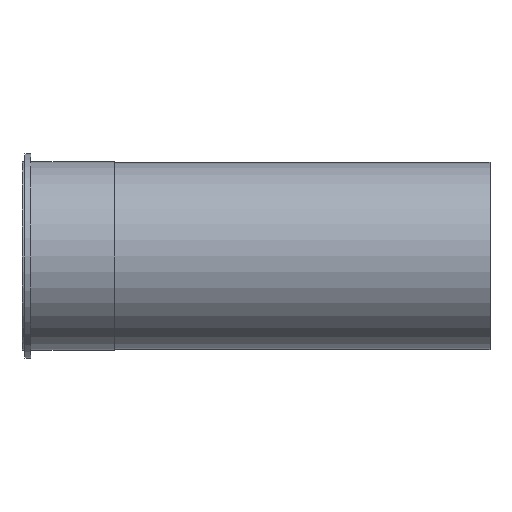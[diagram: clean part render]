
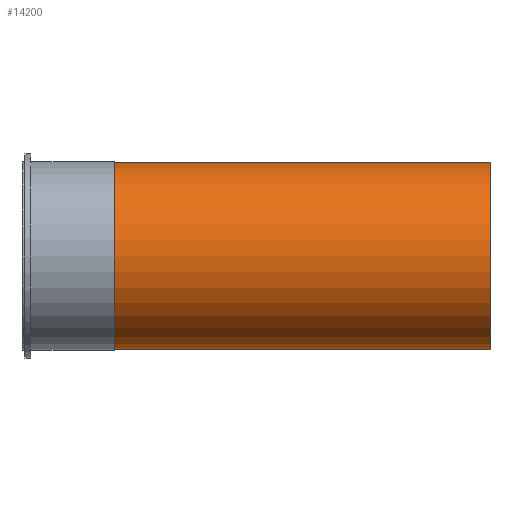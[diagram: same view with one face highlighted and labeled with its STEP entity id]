
A CAD part, front view. The second image highlights one B-rep face of the part: STEP entity #14200.
In plain terms, the highlighted cylindrical face has radius 99.949 mm (diameter 199.898 mm), a full revolution.
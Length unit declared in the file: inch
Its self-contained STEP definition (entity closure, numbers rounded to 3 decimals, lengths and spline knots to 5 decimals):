
#14169=CARTESIAN_POINT('',(3.88,3.935,0.0));
#14170=VERTEX_POINT('',#14169);
#14171=CARTESIAN_POINT('',(3.88,0.0,0.0));
#14172=DIRECTION('',(1.0,0.0,0.0));
#14173=DIRECTION('',(0.0,1.0,0.0));
#14174=AXIS2_PLACEMENT_3D('',#14171,#14172,#14173);
#14175=CIRCLE('',#14174,3.935);
#14176=EDGE_CURVE('',#14170,#14170,#14175,.T.);
#14181=CARTESIAN_POINT('',(11.78252,0.0,0.0));
#14182=DIRECTION('',(1.0,0.0,0.0));
#14183=DIRECTION('',(0.0,1.0,0.0));
#14184=AXIS2_PLACEMENT_3D('',#14181,#14182,#14183);
#14185=CYLINDRICAL_SURFACE('',#14184,3.935);
#14186=CARTESIAN_POINT('',(19.68504,3.935,0.0));
#14187=VERTEX_POINT('',#14186);
#14188=CARTESIAN_POINT('',(19.68504,0.0,0.0));
#14189=DIRECTION('',(1.0,0.0,0.0));
#14190=DIRECTION('',(0.0,1.0,0.0));
#14191=AXIS2_PLACEMENT_3D('',#14188,#14189,#14190);
#14192=CIRCLE('',#14191,3.935);
#14193=EDGE_CURVE('',#14187,#14187,#14192,.T.);
#14194=ORIENTED_EDGE('',*,*,#14193,.F.);
#14195=EDGE_LOOP('',(#14194));
#14196=FACE_OUTER_BOUND('',#14195,.T.);
#14197=ORIENTED_EDGE('',*,*,#14176,.T.);
#14198=EDGE_LOOP('',(#14197));
#14199=FACE_BOUND('',#14198,.T.);
#14200=ADVANCED_FACE('',(#14196,#14199),#14185,.T.);
